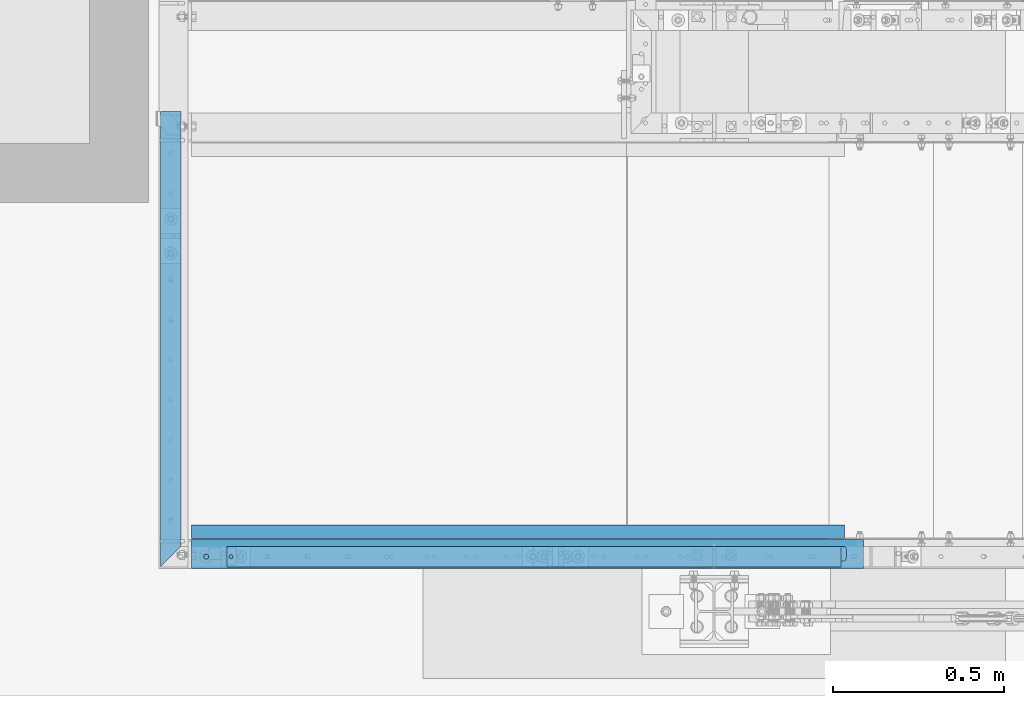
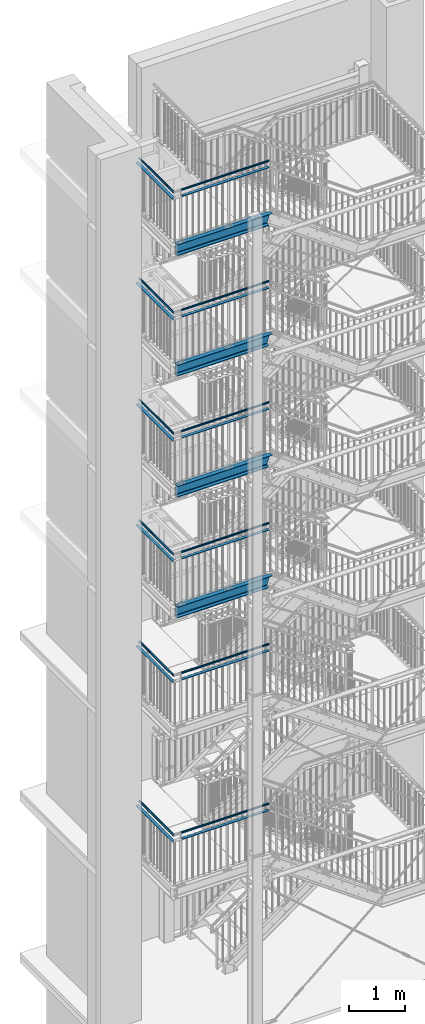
# One storey, part 115 of 831: 32 beams, 30 openings.
"""IFC2X3 building model written with IfcOpenShell, lengths in millimetres."""

from ifc_helpers import new_model, entity, si_unit, converted_unit, frame, frame_2d, origin, origin_with_axes, origin_2d, origin_2d_with_axis, place, context, project, spatial, rectangle, circle, hollow_circle, l_section, u_section, extrude, clip, halfspace, material, element, save


model = new_model("IFC2X3")

# Units and contexts
model_context = context("Model", 3, precision=1e-09, world=origin_with_axes())
ifc_project = project(units=[si_unit("LENGTHUNIT", "METRE", prefix="MILLI"), si_unit("AREAUNIT", "SQUARE_METRE"), si_unit("VOLUMEUNIT", "CUBIC_METRE"), converted_unit("PLANEANGLEUNIT", "DEGREE", entity("IfcPlaneAngleMeasure", 0.01745329), si_unit("PLANEANGLEUNIT", "RADIAN"), dimensions=[0, 0, 0, 0, 0, 0, 0])], contexts=[model_context])

# Site, building, storey
site_placement = place(None, origin_with_axes())
site = spatial("IfcSite", under=ifc_project, at=site_placement, Name="Site", CompositionType="ELEMENT")
building_placement = place(site_placement, origin_with_axes())
building = spatial("IfcBuilding", under=site, at=building_placement, Name="Struktur 1", CompositionType="ELEMENT")
storey_placement = place(building_placement, origin_with_axes())
storey = spatial("IfcBuildingStorey", under=building, at=storey_placement, Name="Default Storey", CompositionType="ELEMENT", Elevation=0.0)

# Beams
ifc_material = material(Name="S235JR")
beam_1_placement = place(None, frame((3280.513402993, 4493.136971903, 16354.0), z_axis=(0.0, -1.0, 0.0), x_axis=(0.0, 0.0, -1.0)))
element("IfcBeam", 1, at=beam_1_placement, inside=storey, material=ifc_material, Name="Gel?nder", ObjectType="Gel?nder", context=model_context, shape_type="Clipping", body=[
    clip(extrude(hollow_circle(Radius=21.2, WallThickness=3.2, at=origin_2d()), origin(), (0.0, 0.0, -1.0), 1263.24632653), halfspace(frame((16354.0, -3908.025894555, 3865.624480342), z_axis=(0.0, -0.707106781, -0.707106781), x_axis=(0.0, -0.707106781, 0.707106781)), True)),
])
beam_2_placement = place(None, frame((3280.513402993, 4493.136971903, 18974.0), z_axis=(0.0, -1.0, 0.0), x_axis=(0.0, 0.0, -1.0)))
element("IfcBeam", 2, at=beam_2_placement, inside=storey, material=ifc_material, Name="Gel?nder", ObjectType="Gel?nder", context=model_context, shape_type="Clipping", body=[
    clip(extrude(hollow_circle(Radius=21.2, WallThickness=3.2, at=origin_2d()), origin(), (0.0, 0.0, -1.0), 1263.24632653), halfspace(frame((18973.999999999, -3908.025894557, 3865.624480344), z_axis=(0.0, -0.707106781, -0.707106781), x_axis=(0.0, -0.707106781, 0.707106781)), True)),
])
beam_3_placement = place(None, frame((3271.713402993, 4483.725345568, 4860.8), z_axis=(0.0, -1.0, 0.0), x_axis=(0.0, 0.0, -1.0)))
element("IfcBeam", 3, at=beam_3_placement, inside=storey, material=ifc_material, Name="Railing_Kneerail_Landing#1019", ObjectType="Railing_Kneerail_Landing#1019", context=model_context, shape_type="Clipping", body=[
    clip(extrude(rectangle(XDim=10.0, YDim=60.0, at=origin_2d()), origin(), (0.0, 0.0, -1.0), 1341.857952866), halfspace(frame((4860.8, -3899.225894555, 3856.212854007), z_axis=(0.0, -0.707106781, -0.707106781), x_axis=(0.0, -0.707106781, 0.707106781)), True)),
])
beam_4_placement = place(None, frame((3271.713402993, 4483.725345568, 8333.8), z_axis=(0.0, -1.0, 0.0), x_axis=(0.0, 0.0, -1.0)))
element("IfcBeam", 4, at=beam_4_placement, inside=storey, material=ifc_material, Name="Railing_Kneerail_Landing#1021", ObjectType="Railing_Kneerail_Landing#1021", context=model_context, shape_type="Clipping", body=[
    clip(extrude(rectangle(XDim=10.0, YDim=60.0, at=origin_2d()), origin(), (0.0, 0.0, -1.0), 1341.857952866), halfspace(frame((8333.8, -3899.225894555, 3856.212854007), z_axis=(0.0, -0.707106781, -0.707106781), x_axis=(0.0, -0.707106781, 0.707106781)), True)),
])
beam_5_placement = place(None, frame((3271.713402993, 4483.725345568, 10965.8), z_axis=(0.0, -1.0, 0.0), x_axis=(0.0, 0.0, -1.0)))
element("IfcBeam", 5, at=beam_5_placement, inside=storey, material=ifc_material, Name="Railing_Kneerail_Landing#1021", ObjectType="Railing_Kneerail_Landing#1021", context=model_context, shape_type="Clipping", body=[
    clip(extrude(rectangle(XDim=10.0, YDim=60.0, at=origin_2d()), origin(), (0.0, 0.0, -1.0), 1341.857952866), halfspace(frame((10965.8, -3899.225894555, 3856.212854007), z_axis=(0.0, -0.707106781, -0.707106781), x_axis=(0.0, -0.707106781, 0.707106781)), True)),
])
beam_6_placement = place(None, frame((3271.713402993, 4483.725345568, 13592.8), z_axis=(0.0, -1.0, 0.0), x_axis=(0.0, 0.0, -1.0)))
element("IfcBeam", 6, at=beam_6_placement, inside=storey, material=ifc_material, Name="Railing_Kneerail_Landing#1021", ObjectType="Railing_Kneerail_Landing#1021", context=model_context, shape_type="Clipping", body=[
    clip(extrude(rectangle(XDim=10.0, YDim=60.0, at=origin_2d()), origin(), (0.0, 0.0, -1.0), 1341.857952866), halfspace(frame((13592.8, -3899.225894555, 3856.212854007), z_axis=(0.0, -0.707106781, -0.707106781), x_axis=(0.0, -0.707106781, 0.707106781)), True)),
])
beam_7_placement = place(None, frame((3271.713402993, 4483.725345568, 16227.8), z_axis=(0.0, -1.0, 0.0), x_axis=(0.0, 0.0, -1.0)))
element("IfcBeam", 7, at=beam_7_placement, inside=storey, material=ifc_material, Name="Railing_Kneerail_Landing#1021", ObjectType="Railing_Kneerail_Landing#1021", context=model_context, shape_type="Clipping", body=[
    clip(extrude(rectangle(XDim=10.0, YDim=60.0, at=origin_2d()), origin(), (0.0, 0.0, -1.0), 1341.857952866), halfspace(frame((16227.8, -3899.225894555, 3856.212854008), z_axis=(0.0, -0.707106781, -0.707106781), x_axis=(0.0, -0.707106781, 0.707106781)), True)),
])
beam_8_placement = place(None, frame((3271.713402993, 4483.725345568, 18847.8), z_axis=(0.0, -1.0, 0.0), x_axis=(0.0, 0.0, -1.0)))
element("IfcBeam", 8, at=beam_8_placement, inside=storey, material=ifc_material, Name="Railing_Kneerail_Landing#1021", ObjectType="Railing_Kneerail_Landing#1021", context=model_context, shape_type="Clipping", body=[
    clip(extrude(rectangle(XDim=10.0, YDim=60.0, at=origin_2d()), origin(), (0.0, 0.0, -1.0), 1341.857952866), halfspace(frame((18847.799999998, -3899.225894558, 3856.212854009), z_axis=(0.0, -0.707106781, -0.707106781), x_axis=(0.0, -0.707106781, 0.707106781)), True)),
])

# Beam, opening
beam_9_placement = place(None, frame((5226.652433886, 4526.736971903, 18847.8), z_axis=(1.0, 0.0, 0.0), x_axis=(0.0, 0.0, -1.0)))
beam_9 = element("IfcBeam", 9, at=beam_9_placement, inside=storey, material=ifc_material, Name="Railing_Kneerail_Landing#1018", ObjectType="Railing_Kneerail_Landing#1018", context=model_context, shape_type="SweptSolid", body=[
    extrude(rectangle(XDim=10.0, YDim=60.0, at=origin_2d()), origin(), (0.0, 0.0, -1.0), 1791.360888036),
])
opening_1_placement = place(beam_9_placement, frame((5.5, 0.0, -1779.360888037), z_axis=(-1.0, 0.0, 0.0), x_axis=(0.0, 0.0, 1.0)))
element("IfcOpeningElement", 10, at=opening_1_placement, cuts=beam_9, ObjectType="Opening", context=model_context, shape_type="SweptSolid", body=[
    extrude(circle(Radius=5.001, at=origin_2d_with_axis()), origin(), (0.0, 0.0, 1.0), 11.0),
])

# Beam
beam_10_placement = place(None, frame((5268.214989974, 4535.536971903, 18974.0), z_axis=(1.0, 0.0, 0.0), x_axis=(0.0, 0.0, -1.0)))
element("IfcBeam", 11, at=beam_10_placement, inside=storey, material=ifc_material, Name="Railing_Handrail_Landing#8", ObjectType="Railing_Handrail_Landing#8", context=model_context, shape_type="Clipping", body=[
    clip(extrude(hollow_circle(Radius=21.2, WallThickness=3.2, at=origin_2d()), origin(), (0.0, 0.0, -1.0), 1832.923444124), halfspace(frame((18716.438937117, -4535.536971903, -6066.935776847), z_axis=(-0.306904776, 0.0, -0.951740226), x_axis=(0.0, -1.0, 0.0)), True)),
])

# Beam, opening
beam_11_placement = place(None, frame((5226.60575471, 4526.736971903, 16227.8), z_axis=(1.0, 0.0, 0.0), x_axis=(0.0, 0.0, -1.0)))
beam_11 = element("IfcBeam", 12, at=beam_11_placement, inside=storey, material=ifc_material, Name="Railing_Kneerail_Landing#1020", ObjectType="Railing_Kneerail_Landing#1020", context=model_context, shape_type="SweptSolid", body=[
    extrude(rectangle(XDim=10.0, YDim=60.0, at=origin_2d()), origin(), (0.0, 0.0, -1.0), 1791.314208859),
])
opening_2_placement = place(beam_11_placement, frame((5.5, 0.0, -1779.31420886), z_axis=(-1.0, 0.0, 0.0), x_axis=(0.0, 0.0, 1.0)))
element("IfcOpeningElement", 13, at=opening_2_placement, cuts=beam_11, ObjectType="Opening", context=model_context, shape_type="SweptSolid", body=[
    extrude(circle(Radius=5.001, at=origin_2d_with_axis()), origin(), (0.0, 0.0, 1.0), 11.0),
])

# Beam
beam_12_placement = place(None, frame((5268.228785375, 4535.536971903, 16354.0), z_axis=(1.0, 0.0, 0.0), x_axis=(0.0, 0.0, -1.0)))
element("IfcBeam", 14, at=beam_12_placement, inside=storey, material=ifc_material, Name="Railing_Handrail_Landing#8", ObjectType="Railing_Handrail_Landing#8", context=model_context, shape_type="Clipping", body=[
    clip(extrude(hollow_circle(Radius=21.2, WallThickness=3.2, at=origin_2d()), origin(), (0.0, 0.0, -1.0), 1832.937239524), halfspace(frame((16336.003889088, -4535.536971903, -5323.778666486), z_axis=(-0.308193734, 0.0, -0.951323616), x_axis=(0.0, -1.0, 0.0)), True)),
])

# Beam, opening
beam_13_placement = place(None, frame((5226.630632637, 4526.736971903, 13592.8), z_axis=(1.0, 0.0, 0.0), x_axis=(0.0, 0.0, -1.0)))
beam_13 = element("IfcBeam", 15, at=beam_13_placement, inside=storey, material=ifc_material, Name="Railing_Kneerail_Landing#1018", ObjectType="Railing_Kneerail_Landing#1018", context=model_context, shape_type="SweptSolid", body=[
    extrude(rectangle(XDim=10.0, YDim=60.0, at=origin_2d()), origin(), (0.0, 0.0, -1.0), 1791.339086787),
])
opening_3_placement = place(beam_13_placement, frame((5.5, 0.0, -1779.339086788), z_axis=(-1.0, 0.0, 0.0), x_axis=(0.0, 0.0, 1.0)))
element("IfcOpeningElement", 16, at=opening_3_placement, cuts=beam_13, ObjectType="Opening", context=model_context, shape_type="SweptSolid", body=[
    extrude(circle(Radius=5.001, at=origin_2d_with_axis()), origin(), (0.0, 0.0, 1.0), 11.0),
])

# Beam
beam_14_placement = place(None, frame((5268.221425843, 4535.536971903, 13719.0), z_axis=(1.0, 0.0, 0.0), x_axis=(0.0, 0.0, -1.0)))
element("IfcBeam", 17, at=beam_14_placement, inside=storey, material=ifc_material, Name="Railing_Handrail_Landing#8", ObjectType="Railing_Handrail_Landing#8", context=model_context, shape_type="Clipping", body=[
    clip(extrude(hollow_circle(Radius=21.2, WallThickness=3.2, at=origin_2d()), origin(), (0.0, 0.0, -1.0), 1832.929879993), halfspace(frame((13954.022486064, -4535.536971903, -4540.970749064), z_axis=(-0.307506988, 0.0, -0.951545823), x_axis=(0.0, -1.0, 0.0)), True)),
])

# Beam, opening
beam_15_placement = place(None, frame((5226.615079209, 4526.736971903, 10965.8), z_axis=(1.0, 0.0, 0.0), x_axis=(0.0, 0.0, -1.0)))
beam_15 = element("IfcBeam", 18, at=beam_15_placement, inside=storey, material=ifc_material, Name="Railing_Kneerail_Landing#1020", ObjectType="Railing_Kneerail_Landing#1020", context=model_context, shape_type="SweptSolid", body=[
    extrude(rectangle(XDim=10.0, YDim=60.0, at=origin_2d()), origin(), (0.0, 0.0, -1.0), 1791.323533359),
])
opening_4_placement = place(beam_15_placement, frame((5.5, 0.0, -1779.32353336), z_axis=(-1.0, 0.0, 0.0), x_axis=(0.0, 0.0, 1.0)))
element("IfcOpeningElement", 19, at=opening_4_placement, cuts=beam_15, ObjectType="Opening", context=model_context, shape_type="SweptSolid", body=[
    extrude(circle(Radius=5.001, at=origin_2d_with_axis()), origin(), (0.0, 0.0, 1.0), 11.0),
])

# Beam
beam_16_placement = place(None, frame((5268.226025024, 4535.536971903, 11092.0), z_axis=(1.0, 0.0, 0.0), x_axis=(0.0, 0.0, -1.0)))
element("IfcBeam", 20, at=beam_16_placement, inside=storey, material=ifc_material, Name="Railing_Handrail_Landing#8", ObjectType="Railing_Handrail_Landing#8", context=model_context, shape_type="Clipping", body=[
    clip(extrude(hollow_circle(Radius=21.2, WallThickness=3.2, at=origin_2d()), origin(), (0.0, 0.0, -1.0), 1832.934479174), halfspace(frame((11574.417480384, -4535.536971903, -3777.738523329), z_axis=(-0.307936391, 0.0, -0.951406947), x_axis=(0.0, -1.0, 0.0)), True)),
])

# Beam, opening
beam_17_placement = place(None, frame((5226.843558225, 4526.736971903, 8333.8), z_axis=(1.0, 0.0, 0.0), x_axis=(0.0, 0.0, -1.0)))
beam_17 = element("IfcBeam", 21, at=beam_17_placement, inside=storey, material=ifc_material, Name="Railing_Kneerail_Landing#1018", ObjectType="Railing_Kneerail_Landing#1018", context=model_context, shape_type="SweptSolid", body=[
    extrude(rectangle(XDim=10.0, YDim=60.0, at=origin_2d()), origin(), (0.0, 0.0, -1.0), 1791.552012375),
])
opening_5_placement = place(beam_17_placement, frame((5.5, 0.0, -1779.552012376), z_axis=(-1.0, 0.0, 0.0), x_axis=(0.0, 0.0, 1.0)))
element("IfcOpeningElement", 22, at=opening_5_placement, cuts=beam_17, ObjectType="Opening", context=model_context, shape_type="SweptSolid", body=[
    extrude(circle(Radius=5.001, at=origin_2d_with_axis()), origin(), (0.0, 0.0, 1.0), 11.0),
])

# Beam
beam_18_placement = place(None, frame((5268.159109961, 4535.536971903, 8460.0), z_axis=(1.0, 0.0, 0.0), x_axis=(0.0, 0.0, -1.0)))
element("IfcBeam", 23, at=beam_18_placement, inside=storey, material=ifc_material, Name="Railing_Handrail_Landing#8", ObjectType="Railing_Handrail_Landing#8", context=model_context, shape_type="Clipping", body=[
    clip(extrude(hollow_circle(Radius=21.2, WallThickness=3.2, at=origin_2d()), origin(), (0.0, 0.0, -1.0), 1832.867564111), halfspace(frame((9196.298185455, -4535.536971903, -2940.614561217), z_axis=(-0.301609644, 0.0, -0.953431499), x_axis=(0.0, -1.0, 0.0)), True)),
])

# Beam, opening
beam_19_placement = place(None, frame((5226.741597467, 4526.736971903, 4860.8), z_axis=(1.0, 0.0, 0.0), x_axis=(0.0, 0.0, -1.0)))
beam_19 = element("IfcBeam", 24, at=beam_19_placement, inside=storey, material=ifc_material, Name="Railing_Kneerail_Landing#1018", ObjectType="Railing_Kneerail_Landing#1018", context=model_context, shape_type="SweptSolid", body=[
    extrude(rectangle(XDim=10.0, YDim=60.0, at=origin_2d()), origin(), (0.0, 0.0, -1.0), 1791.453076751),
])
opening_6_placement = place(beam_19_placement, frame((5.5, 0.0, -1779.453076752), z_axis=(-1.0, 0.0, 0.0), x_axis=(0.0, 0.0, 1.0)))
element("IfcOpeningElement", 25, at=opening_6_placement, cuts=beam_19, ObjectType="Opening", context=model_context, shape_type="SweptSolid", body=[
    extrude(circle(Radius=5.001, at=origin_2d_with_axis()), origin(), (0.0, 0.0, 1.0), 11.0),
])

# Beams
beam_20_placement = place(None, frame((5268.188799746, 4535.536971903, 4987.0), z_axis=(1.0, 0.0, 0.0), x_axis=(0.0, 0.0, -1.0)))
element("IfcBeam", 26, at=beam_20_placement, inside=storey, material=ifc_material, Name="Railing_Handrail_Landing#7", ObjectType="Railing_Handrail_Landing#7", context=model_context, shape_type="Clipping", body=[
    clip(extrude(hollow_circle(Radius=21.2, WallThickness=3.2, at=origin_2d()), origin(), (0.0, 0.0, -1.0), 1832.90027903), halfspace(frame((6043.370805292, -4535.536971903, -1962.993061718), z_axis=(-0.304437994, 0.0, -0.952532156), x_axis=(0.0, -1.0, 0.0)), True)),
])
beam_21_placement = place(None, frame((3280.513402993, 4493.136971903, 4987.0), z_axis=(0.0, -1.0, 0.0), x_axis=(0.0, 0.0, -1.0)))
element("IfcBeam", 27, at=beam_21_placement, inside=storey, material=ifc_material, Name="Gel?nder", ObjectType="Gel?nder", context=model_context, shape_type="Clipping", body=[
    clip(extrude(hollow_circle(Radius=21.2, WallThickness=3.2, at=origin_2d()), origin(), (0.0, 0.0, -1.0), 1263.24632653), halfspace(frame((4987.0, -3908.025894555, 3865.624480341), z_axis=(0.0, -0.707106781, -0.707106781), x_axis=(0.0, -0.707106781, 0.707106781)), True)),
])
beam_22_placement = place(None, frame((3280.513402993, 4493.136971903, 8460.0), z_axis=(0.0, -1.0, 0.0), x_axis=(0.0, 0.0, -1.0)))
element("IfcBeam", 28, at=beam_22_placement, inside=storey, material=ifc_material, Name="Gel?nder", ObjectType="Gel?nder", context=model_context, shape_type="Clipping", body=[
    clip(extrude(hollow_circle(Radius=21.2, WallThickness=3.2, at=origin_2d()), origin(), (0.0, 0.0, -1.0), 1263.24632653), halfspace(frame((8460.0, -3908.025894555, 3865.624480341), z_axis=(0.0, -0.707106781, -0.707106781), x_axis=(0.0, -0.707106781, 0.707106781)), True)),
])

# Beam, openings
beam_23_placement = place(None, frame((5551.967347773, 4554.436971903, 9832.0), z_axis=(-1.0, 0.0, 0.0), x_axis=(0.0, -1.0, 0.0)))
beam_23 = element("IfcBeam", 29, at=beam_23_placement, inside=storey, material=ifc_material, Name="Stringer", ObjectType="Stringer", context=model_context, shape_type="Clipping", body=[
    clip(clip(extrude(u_section(Depth=240.0, FlangeWidth=85.0, WebThickness=9.5, FlangeThickness=13.0, FilletRadius=13.0, EdgeRadius=6.5, FlangeSlope=4.574, at=frame_2d((20.2, 0.0))), origin(), (0.0, 0.0, 1.0), 2477.557715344), halfspace(frame((4554.436971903, -9832.0, 2220.25294478), z_axis=(0.0, 0.0, -1.0), x_axis=(-1.0, 0.0, 0.0)), True)), halfspace(frame((4554.436971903, -10438.724783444, 3677.417308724), z_axis=(0.0, 0.307936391, 0.951406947), x_axis=(1.0, 0.0, 0.0)), True)),
])
opening_7_placement = place(beam_23_placement, frame((27.7, 120.5, 2170.174801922), z_axis=(0.0, 1.0, 0.0), x_axis=(-1.0, 0.0, 0.0)))
element("IfcOpeningElement", 30, at=opening_7_placement, cuts=beam_23, ObjectType="Opening", context=model_context, shape_type="SweptSolid", body=[
    extrude(circle(Radius=7.001, at=frame_2d((0.0, 7.001), x_axis=(1.0, 0.0))), origin(), (0.0, 0.0, -1.0), 14.0),
])
opening_8_placement = place(beam_23_placement, frame((27.7, 120.5, 2070.174801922), z_axis=(0.0, 1.0, 0.0), x_axis=(-1.0, 0.0, 0.0)))
element("IfcOpeningElement", 31, at=opening_8_placement, cuts=beam_23, ObjectType="Opening", context=model_context, shape_type="SweptSolid", body=[
    extrude(circle(Radius=7.001, at=frame_2d((0.0, 7.001), x_axis=(1.0, 0.0))), origin(), (0.0, 0.0, -1.0), 14.0),
])
opening_9_placement = place(beam_23_placement, frame((27.7, 120.5, 1185.174659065), z_axis=(0.0, 1.0, 0.0), x_axis=(-1.0, 0.0, 0.0)))
element("IfcOpeningElement", 32, at=opening_9_placement, cuts=beam_23, ObjectType="Opening", context=model_context, shape_type="SweptSolid", body=[
    extrude(circle(Radius=7.001, at=frame_2d((0.0, 7.001), x_axis=(1.0, 0.0))), origin(), (0.0, 0.0, -1.0), 14.0),
])
opening_10_placement = place(beam_23_placement, frame((27.7, 120.5, 1085.174659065), z_axis=(0.0, 1.0, 0.0), x_axis=(-1.0, 0.0, 0.0)))
element("IfcOpeningElement", 33, at=opening_10_placement, cuts=beam_23, ObjectType="Opening", context=model_context, shape_type="SweptSolid", body=[
    extrude(circle(Radius=7.001, at=frame_2d((0.0, 7.001), x_axis=(1.0, 0.0))), origin(), (0.0, 0.0, -1.0), 14.0),
])
opening_11_placement = place(beam_23_placement, frame((29.701, -120.5, 745.25394478), z_axis=(0.0, -1.0, 0.0), x_axis=(1.0, 0.0, 0.0)))
element("IfcOpeningElement", 34, at=opening_11_placement, cuts=beam_23, ObjectType="Opening", context=model_context, shape_type="SweptSolid", body=[
    extrude(circle(Radius=7.001, at=frame_2d((-7.001, 0.0), x_axis=(1.0, 0.0))), origin(), (0.0, 0.0, -1.0), 14.0),
])
opening_12_placement = place(beam_23_placement, frame((29.701, -120.5, 645.25394478), z_axis=(0.0, -1.0, 0.0), x_axis=(1.0, 0.0, 0.0)))
element("IfcOpeningElement", 35, at=opening_12_placement, cuts=beam_23, ObjectType="Opening", context=model_context, shape_type="SweptSolid", body=[
    extrude(circle(Radius=7.001, at=frame_2d((-7.001, 0.0), x_axis=(1.0, 0.0))), origin(), (0.0, 0.0, -1.0), 14.0),
])

# Beam
beam_24_placement = place(None, frame((5236.713402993, 4590.936971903, 9940.8), z_axis=(1.0, 0.0, 0.0), x_axis=(0.0, 0.0, -1.0)))
element("IfcBeam", 36, at=beam_24_placement, inside=storey, material=ifc_material, Name="TopLanding#3", ObjectType="TopLanding#3", context=model_context, shape_type="SweptSolid", body=[
    extrude(l_section(Depth=40.0, Width=40.0, Thickness=4.0, FilletRadius=6.0, EdgeRadius=3.0, at=frame_2d((8.8, 8.8))), origin(), (0.0, 0.0, -1.0), 1905.0),
])

# Beam, openings
beam_25_placement = place(None, frame((5552.034700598, 4554.436971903, 12459.0), z_axis=(-1.0, 0.0, 0.0), x_axis=(0.0, -1.0, 0.0)))
beam_25 = element("IfcBeam", 37, at=beam_25_placement, inside=storey, material=ifc_material, Name="Stringer", ObjectType="Stringer", context=model_context, shape_type="Clipping", body=[
    clip(clip(extrude(u_section(Depth=240.0, FlangeWidth=85.0, WebThickness=9.5, FlangeThickness=13.0, FilletRadius=13.0, EdgeRadius=6.5, FlangeSlope=4.574, at=frame_2d((20.2, 0.0))), origin(), (0.0, 0.0, 1.0), 2477.62506817), halfspace(frame((4554.436971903, -12459.0, 2220.320297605), z_axis=(0.0, 0.0, -1.0), x_axis=(-1.0, 0.0, 0.0)), True)), halfspace(frame((4554.436971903, -12818.039088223, 4441.028582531), z_axis=(0.0, 0.307506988, 0.951545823), x_axis=(1.0, 0.0, 0.0)), True)),
])
opening_13_placement = place(beam_25_placement, frame((27.7, 120.5, 2170.242154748), z_axis=(0.0, 1.0, 0.0), x_axis=(-1.0, 0.0, 0.0)))
element("IfcOpeningElement", 38, at=opening_13_placement, cuts=beam_25, ObjectType="Opening", context=model_context, shape_type="SweptSolid", body=[
    extrude(circle(Radius=7.001, at=frame_2d((0.0, 7.001), x_axis=(1.0, 0.0))), origin(), (0.0, 0.0, -1.0), 14.0),
])
opening_14_placement = place(beam_25_placement, frame((27.7, 120.5, 2070.242154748), z_axis=(0.0, 1.0, 0.0), x_axis=(-1.0, 0.0, 0.0)))
element("IfcOpeningElement", 39, at=opening_14_placement, cuts=beam_25, ObjectType="Opening", context=model_context, shape_type="SweptSolid", body=[
    extrude(circle(Radius=7.001, at=frame_2d((0.0, 7.001), x_axis=(1.0, 0.0))), origin(), (0.0, 0.0, -1.0), 14.0),
])
opening_15_placement = place(beam_25_placement, frame((27.7, 120.5, 1185.242011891), z_axis=(0.0, 1.0, 0.0), x_axis=(-1.0, 0.0, 0.0)))
element("IfcOpeningElement", 40, at=opening_15_placement, cuts=beam_25, ObjectType="Opening", context=model_context, shape_type="SweptSolid", body=[
    extrude(circle(Radius=7.001, at=frame_2d((0.0, 7.001), x_axis=(1.0, 0.0))), origin(), (0.0, 0.0, -1.0), 14.0),
])
opening_16_placement = place(beam_25_placement, frame((27.7, 120.5, 1085.242011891), z_axis=(0.0, 1.0, 0.0), x_axis=(-1.0, 0.0, 0.0)))
element("IfcOpeningElement", 41, at=opening_16_placement, cuts=beam_25, ObjectType="Opening", context=model_context, shape_type="SweptSolid", body=[
    extrude(circle(Radius=7.001, at=frame_2d((0.0, 7.001), x_axis=(1.0, 0.0))), origin(), (0.0, 0.0, -1.0), 14.0),
])
opening_17_placement = place(beam_25_placement, frame((29.701, -120.5, 645.321297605), z_axis=(0.0, -1.0, 0.0), x_axis=(1.0, 0.0, 0.0)))
element("IfcOpeningElement", 42, at=opening_17_placement, cuts=beam_25, ObjectType="Opening", context=model_context, shape_type="SweptSolid", body=[
    extrude(circle(Radius=7.001, at=frame_2d((-7.001, 0.0), x_axis=(1.0, 0.0))), origin(), (0.0, 0.0, -1.0), 14.0),
])
opening_18_placement = place(beam_25_placement, frame((29.701, -120.5, 745.321297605), z_axis=(0.0, -1.0, 0.0), x_axis=(1.0, 0.0, 0.0)))
element("IfcOpeningElement", 43, at=opening_18_placement, cuts=beam_25, ObjectType="Opening", context=model_context, shape_type="SweptSolid", body=[
    extrude(circle(Radius=7.001, at=frame_2d((-7.001, 0.0), x_axis=(1.0, 0.0))), origin(), (0.0, 0.0, -1.0), 14.0),
])

# Beam
beam_26_placement = place(None, frame((5236.713402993, 4590.936971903, 12567.8), z_axis=(1.0, 0.0, 0.0), x_axis=(0.0, 0.0, -1.0)))
element("IfcBeam", 44, at=beam_26_placement, inside=storey, material=ifc_material, Name="TopLanding#3", ObjectType="TopLanding#3", context=model_context, shape_type="SweptSolid", body=[
    extrude(l_section(Depth=40.0, Width=40.0, Thickness=4.0, FilletRadius=6.0, EdgeRadius=3.0, at=frame_2d((8.8, 8.8))), origin(), (0.0, 0.0, -1.0), 1905.0),
])

# Beam, openings
beam_27_placement = place(None, frame((5551.927134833, 4554.436971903, 15094.0), z_axis=(-1.0, 0.0, 0.0), x_axis=(0.0, -1.0, 0.0)))
beam_27 = element("IfcBeam", 45, at=beam_27_placement, inside=storey, material=ifc_material, Name="Stringer", ObjectType="Stringer", context=model_context, shape_type="Clipping", body=[
    clip(clip(extrude(u_section(Depth=240.0, FlangeWidth=85.0, WebThickness=9.5, FlangeThickness=13.0, FilletRadius=13.0, EdgeRadius=6.5, FlangeSlope=4.574, at=frame_2d((20.2, 0.0))), origin(), (0.0, 0.0, 1.0), 2477.517502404), halfspace(frame((4554.436971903, -15094.0, 2220.21273184), z_axis=(0.0, 0.0, -1.0), x_axis=(-1.0, 0.0, 0.0)), True)), halfspace(frame((4554.436971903, -15200.485604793, 5223.230411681), z_axis=(0.0, 0.308193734, 0.951323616), x_axis=(1.0, 0.0, 0.0)), True)),
])
opening_19_placement = place(beam_27_placement, frame((27.7, 120.5, 2170.134588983), z_axis=(0.0, 1.0, 0.0), x_axis=(-1.0, 0.0, 0.0)))
element("IfcOpeningElement", 46, at=opening_19_placement, cuts=beam_27, ObjectType="Opening", context=model_context, shape_type="SweptSolid", body=[
    extrude(circle(Radius=7.001, at=frame_2d((0.0, 7.001), x_axis=(1.0, 0.0))), origin(), (0.0, 0.0, -1.0), 14.0),
])
opening_20_placement = place(beam_27_placement, frame((27.7, 120.5, 2070.134588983), z_axis=(0.0, 1.0, 0.0), x_axis=(-1.0, 0.0, 0.0)))
element("IfcOpeningElement", 47, at=opening_20_placement, cuts=beam_27, ObjectType="Opening", context=model_context, shape_type="SweptSolid", body=[
    extrude(circle(Radius=7.001, at=frame_2d((0.0, 7.001), x_axis=(1.0, 0.0))), origin(), (0.0, 0.0, -1.0), 14.0),
])
opening_21_placement = place(beam_27_placement, frame((27.7, 120.5, 1185.134446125), z_axis=(0.0, 1.0, 0.0), x_axis=(-1.0, 0.0, 0.0)))
element("IfcOpeningElement", 48, at=opening_21_placement, cuts=beam_27, ObjectType="Opening", context=model_context, shape_type="SweptSolid", body=[
    extrude(circle(Radius=7.001, at=frame_2d((0.0, 7.001), x_axis=(1.0, 0.0))), origin(), (0.0, 0.0, -1.0), 14.0),
])
opening_22_placement = place(beam_27_placement, frame((27.7, 120.5, 1085.134446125), z_axis=(0.0, 1.0, 0.0), x_axis=(-1.0, 0.0, 0.0)))
element("IfcOpeningElement", 49, at=opening_22_placement, cuts=beam_27, ObjectType="Opening", context=model_context, shape_type="SweptSolid", body=[
    extrude(circle(Radius=7.001, at=frame_2d((0.0, 7.001), x_axis=(1.0, 0.0))), origin(), (0.0, 0.0, -1.0), 14.0),
])
opening_23_placement = place(beam_27_placement, frame((29.701, -120.5, 645.21373184), z_axis=(0.0, -1.0, 0.0), x_axis=(1.0, 0.0, 0.0)))
element("IfcOpeningElement", 50, at=opening_23_placement, cuts=beam_27, ObjectType="Opening", context=model_context, shape_type="SweptSolid", body=[
    extrude(circle(Radius=7.001, at=frame_2d((-7.001, 0.0), x_axis=(1.0, 0.0))), origin(), (0.0, 0.0, -1.0), 14.0),
])
opening_24_placement = place(beam_27_placement, frame((29.701, -120.5, 745.21373184), z_axis=(0.0, -1.0, 0.0), x_axis=(1.0, 0.0, 0.0)))
element("IfcOpeningElement", 51, at=opening_24_placement, cuts=beam_27, ObjectType="Opening", context=model_context, shape_type="SweptSolid", body=[
    extrude(circle(Radius=7.001, at=frame_2d((-7.001, 0.0), x_axis=(1.0, 0.0))), origin(), (0.0, 0.0, -1.0), 14.0),
])

# Beam
beam_28_placement = place(None, frame((5236.713402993, 4590.936971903, 15202.8), z_axis=(1.0, 0.0, 0.0), x_axis=(0.0, 0.0, -1.0)))
element("IfcBeam", 52, at=beam_28_placement, inside=storey, material=ifc_material, Name="TopLanding#3", ObjectType="TopLanding#3", context=model_context, shape_type="SweptSolid", body=[
    extrude(l_section(Depth=40.0, Width=40.0, Thickness=4.0, FilletRadius=6.0, EdgeRadius=3.0, at=frame_2d((8.8, 8.8))), origin(), (0.0, 0.0, -1.0), 1905.0),
])

# Beam, openings
beam_29_placement = place(None, frame((5552.129694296, 4554.436971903, 17713.999999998), z_axis=(-1.0, 0.0, 0.0), x_axis=(0.0, -1.0, 0.0)))
beam_29 = element("IfcBeam", 53, at=beam_29_placement, inside=storey, material=ifc_material, Name="Stringer", ObjectType="Stringer", context=model_context, shape_type="Clipping", body=[
    clip(clip(extrude(u_section(Depth=240.0, FlangeWidth=85.0, WebThickness=9.5, FlangeThickness=13.0, FilletRadius=13.0, EdgeRadius=6.5, FlangeSlope=4.574, at=frame_2d((20.2, 0.0))), origin(), (0.0, 0.0, 1.0), 2477.720061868), halfspace(frame((4554.436971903, -17713.999999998, 2220.415291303), z_axis=(0.0, 0.0, -1.0), x_axis=(-1.0, 0.0, 0.0)), True)), halfspace(frame((4554.436971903, -17580.048532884, 5967.525639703), z_axis=(0.0, 0.306904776, 0.951740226), x_axis=(1.0, 0.0, 0.0)), True)),
])
opening_25_placement = place(beam_29_placement, frame((27.7, 120.5, 2170.337148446), z_axis=(0.0, 1.0, 0.0), x_axis=(-1.0, 0.0, 0.0)))
element("IfcOpeningElement", 54, at=opening_25_placement, cuts=beam_29, ObjectType="Opening", context=model_context, shape_type="SweptSolid", body=[
    extrude(circle(Radius=7.001, at=frame_2d((0.0, 7.001), x_axis=(1.0, 0.0))), origin(), (0.0, 0.0, -1.0), 14.0),
])
opening_26_placement = place(beam_29_placement, frame((27.7, 120.5, 2070.337148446), z_axis=(0.0, 1.0, 0.0), x_axis=(-1.0, 0.0, 0.0)))
element("IfcOpeningElement", 55, at=opening_26_placement, cuts=beam_29, ObjectType="Opening", context=model_context, shape_type="SweptSolid", body=[
    extrude(circle(Radius=7.001, at=frame_2d((0.0, 7.001), x_axis=(1.0, 0.0))), origin(), (0.0, 0.0, -1.0), 14.0),
])
opening_27_placement = place(beam_29_placement, frame((27.7, 120.5, 1185.337005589), z_axis=(0.0, 1.0, 0.0), x_axis=(-1.0, 0.0, 0.0)))
element("IfcOpeningElement", 56, at=opening_27_placement, cuts=beam_29, ObjectType="Opening", context=model_context, shape_type="SweptSolid", body=[
    extrude(circle(Radius=7.001, at=frame_2d((0.0, 7.001), x_axis=(1.0, 0.0))), origin(), (0.0, 0.0, -1.0), 14.0),
])
opening_28_placement = place(beam_29_placement, frame((27.7, 120.5, 1085.337005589), z_axis=(0.0, 1.0, 0.0), x_axis=(-1.0, 0.0, 0.0)))
element("IfcOpeningElement", 57, at=opening_28_placement, cuts=beam_29, ObjectType="Opening", context=model_context, shape_type="SweptSolid", body=[
    extrude(circle(Radius=7.001, at=frame_2d((0.0, 7.001), x_axis=(1.0, 0.0))), origin(), (0.0, 0.0, -1.0), 14.0),
])
opening_29_placement = place(beam_29_placement, frame((29.701, -120.5, 745.416291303), z_axis=(0.0, -1.0, 0.0), x_axis=(1.0, 0.0, 0.0)))
element("IfcOpeningElement", 58, at=opening_29_placement, cuts=beam_29, ObjectType="Opening", context=model_context, shape_type="SweptSolid", body=[
    extrude(circle(Radius=7.001, at=frame_2d((-7.001, 0.0), x_axis=(1.0, 0.0))), origin(), (0.0, 0.0, -1.0), 14.0),
])
opening_30_placement = place(beam_29_placement, frame((29.701, -120.5, 645.416291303), z_axis=(0.0, -1.0, 0.0), x_axis=(1.0, 0.0, 0.0)))
element("IfcOpeningElement", 59, at=opening_30_placement, cuts=beam_29, ObjectType="Opening", context=model_context, shape_type="SweptSolid", body=[
    extrude(circle(Radius=7.001, at=frame_2d((-7.001, 0.0), x_axis=(1.0, 0.0))), origin(), (0.0, 0.0, -1.0), 14.0),
])

# Beams
beam_30_placement = place(None, frame((5236.713402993, 4590.936971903, 17822.799999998), z_axis=(1.0, 0.0, 0.0), x_axis=(0.0, 0.0, -1.0)))
element("IfcBeam", 60, at=beam_30_placement, inside=storey, material=ifc_material, Name="TopLanding#3", ObjectType="TopLanding#3", context=model_context, shape_type="SweptSolid", body=[
    extrude(l_section(Depth=40.0, Width=40.0, Thickness=4.0, FilletRadius=6.0, EdgeRadius=3.0, at=frame_2d((8.8, 8.8))), origin(), (0.0, 0.0, -1.0), 1905.0),
])
beam_31_placement = place(None, frame((3280.513402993, 4493.136971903, 11092.0), z_axis=(0.0, -1.0, 0.0), x_axis=(0.0, 0.0, -1.0)))
element("IfcBeam", 61, at=beam_31_placement, inside=storey, material=ifc_material, Name="Gel?nder", ObjectType="Gel?nder", context=model_context, shape_type="Clipping", body=[
    clip(extrude(hollow_circle(Radius=21.2, WallThickness=3.2, at=origin_2d()), origin(), (0.0, 0.0, -1.0), 1263.24632653), halfspace(frame((11092.0, -3908.025894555, 3865.624480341), z_axis=(0.0, -0.707106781, -0.707106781), x_axis=(0.0, -0.707106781, 0.707106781)), True)),
])
beam_32_placement = place(None, frame((3280.513402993, 4493.136971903, 13719.0), z_axis=(0.0, -1.0, 0.0), x_axis=(0.0, 0.0, -1.0)))
element("IfcBeam", 62, at=beam_32_placement, inside=storey, material=ifc_material, Name="Gel?nder", ObjectType="Gel?nder", context=model_context, shape_type="Clipping", body=[
    clip(extrude(hollow_circle(Radius=21.2, WallThickness=3.2, at=origin_2d()), origin(), (0.0, 0.0, -1.0), 1263.24632653), halfspace(frame((13719.0, -3908.025894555, 3865.624480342), z_axis=(0.0, -0.707106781, -0.707106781), x_axis=(0.0, -0.707106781, 0.707106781)), True)),
])

save(model, "model.ifc")
